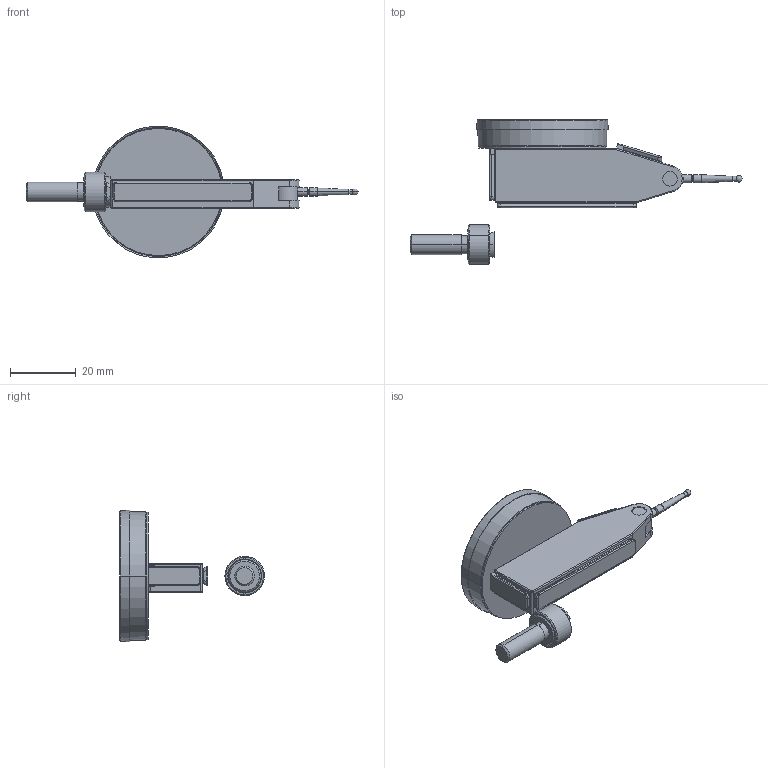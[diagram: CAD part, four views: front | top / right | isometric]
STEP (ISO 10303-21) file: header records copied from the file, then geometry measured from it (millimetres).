
FILE_DESCRIPTION(('Creo Elements/Direct Modeling STEP Export'),'2;1');
FILE_NAME('513-474-10H_TI-113HRX.stp','2020-03-26T13:15:03',(''),(''),'Creo Elements/Direct Modeling STEP processor for AP214 (Solid Model)','Creo Elements/Direct Modeling 18.1I 13-Aug-2016 (C) Parametric Technology GmbH','');
FILE_SCHEMA(('AUTOMOTIVE_DESIGN { 1 0 10303 214 1 1 1 1 }'));
Length unit declared in the file: millimetre
Products named in the file (4): nut_190322; 513-474-10; stem_21CAB103; 513-474-10H
Assembly tree (3 placements, depth 2):
  513-474-10H
    stem_21CAB103
    513-474-10
    nut_190322
Bounding box: 100.75 x 43.95 x 40 mm (x, y, z)
Volume: 19669.2 mm3; surface area: 8298 mm2
Topology: 3 solids, 3 shells, 203 faces, 468 edges, 280 vertices
Faces by surface type: cylinder 83, plane 52, cone 34, torus 16, bspline 16, sphere 2
Entity records: 9016 total; most frequent: CARTESIAN_POINT 4672, ORIENTED_EDGE 932, DIRECTION 837, EDGE_CURVE 466, AXIS2_PLACEMENT_3D 317, VERTEX_POINT 280, EDGE_LOOP 222, FACE_OUTER_BOUND 203
